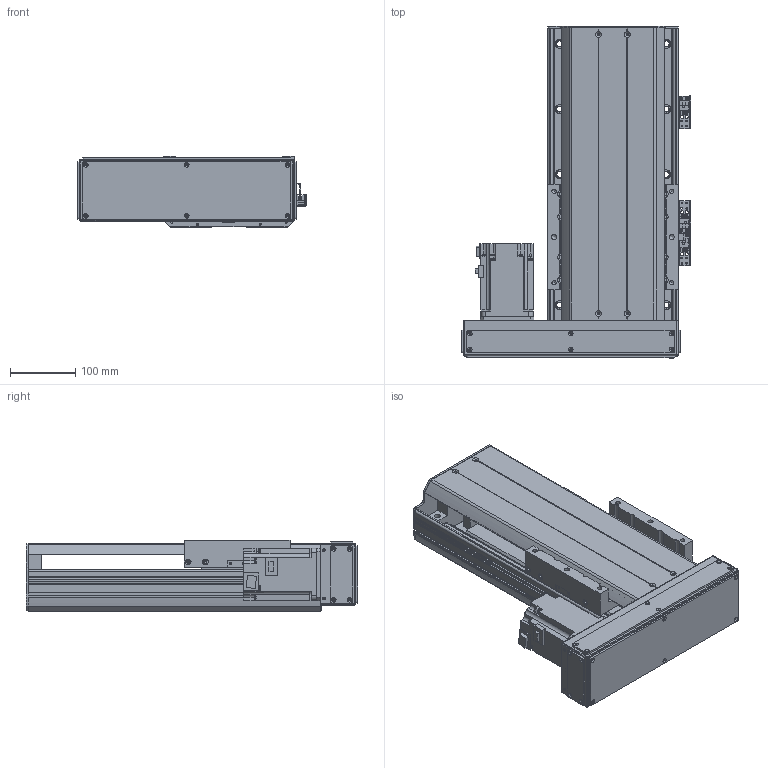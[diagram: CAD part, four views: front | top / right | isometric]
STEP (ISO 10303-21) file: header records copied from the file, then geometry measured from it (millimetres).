
FILE_DESCRIPTION(/* description */ ('MANUFACTURE'),/* implementation_level */ '2;1');
FILE_NAME(/* name */ '\\192.168.0.160\disk1\HAN SHIN Master\B-설계부문\C-표준\B-2024년\BC02-표준도면\+로봇 개선표준도면\홈페이지 표준 도면\홈페이지 최종 작업 폴더\3D\HR\HR200\HG200병렬\좌병렬\HG200-L70-N-0200-R10.stp',/* time_stamp */ '2025-01-18T10:51:57+09:00',/* author */ ('user'),/* organization */ (''),/* preprocessor_version */ 'ST-DEVELOPER v18.1',/* originating_system */ 'Autodesk Inventor 2022',/* authorisation */ 'LIP');
FILE_SCHEMA (('AUTOMOTIVE_DESIGN { 1 0 10303 214 3 1 1 }'));
Products named in the file (20): HG200-L70-N-0500-R10; HR200 S BASE-개선; HR180 FRONT BLOCK; HR180 FRONT BLOCK_1; HR200 FRONT COVER; HR120 STOPPER; HR200 SENSOR DOG; HR200 S UPCOVER; HR200 TABLE (W,N); 750W MOTOR PLATE; HG200 750W LR MOTOR PLATE-사출; hg-kr73_; 화살표; HR160 400W LR BELT COVER; HR200 ACRYL COVER -1; HR200 ACRYL COVER -1_1; HR200 ACRYL COVER -1_2; HG200 BOTTOM COVER; SENSOR BRK(EE-SX674A); EE_SX674A
Assembly tree (26 placements, depth 2):
  HG200-L70-N-0500-R10
    HR200 S BASE-개선
    HR180 FRONT BLOCK
    HR180 FRONT BLOCK_1
    HR200 FRONT COVER
    HR120 STOPPER  x2
    HR200 SENSOR DOG
    SENSOR BRK(EE-SX674A)  x3
    EE_SX674A  x3
    HR200 S UPCOVER
    HR200 TABLE (W,N)
    750W MOTOR PLATE
    HG200 750W LR MOTOR PLATE-사출
    hg-kr73_
    화살표  x2
    HR160 400W LR BELT COVER
    HR200 ACRYL COVER -1
    HR200 ACRYL COVER -1_1
    HR200 ACRYL COVER -1_2  x2
    HG200 BOTTOM COVER
Bounding box: 351 x 508 x 109 mm (x, y, z)
Volume: 4611098.6 mm3; surface area: 1227080.6 mm2
Topology: 26 solids, 26 shells, 3294 faces, 9253 edges, 6119 vertices
Faces by surface type: plane 2470, cylinder 702, cone 118, sphere 4
Full cylindrical faces by diameter (mm): 2.459 x50, 3 x10, 3.242 x18, 3.4 x20, 3.5 x6, 4 x6, 4.134 x10, 4.5 x14, 4.917 x30, 5 x20, 5.5 x5, 5.9 x4, 6 x6, 6.6 x28, 6.647 x20, 7 x4, 7.6 x4, 8 x4, 9 x22, 9.5 x1, 11 x28, 14 x10, 19 x1, 25 x1, 27 x1, 30 x1, 32 x1, 38 x1, 42 x2, 44.5 x1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
Entity records: 101772 total; most frequent: CARTESIAN_POINT 19058, ORIENTED_EDGE 17250, DIRECTION 16067, EDGE_CURVE 8625, LINE 7153, VECTOR 7153, VERTEX_POINT 5755, AXIS2_PLACEMENT_3D 4457
